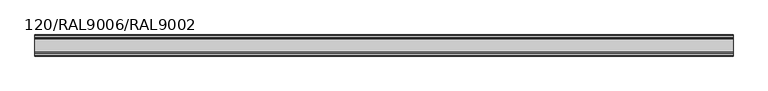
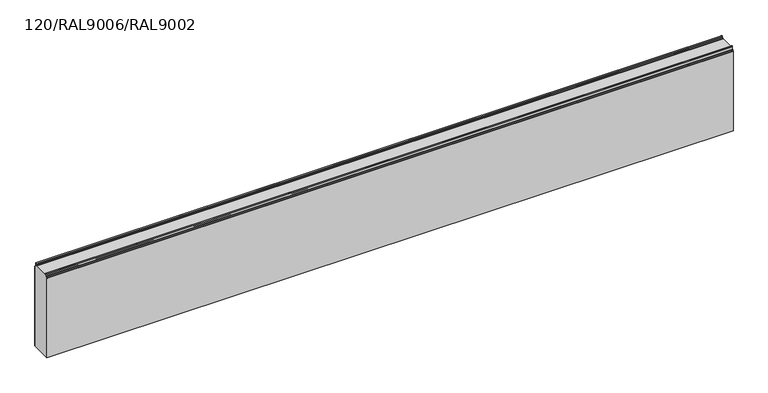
"""IFC4 building model written with IfcOpenShell, lengths in millimetres: plate geometry, TR_C_H_FTV_Panel_cut_TONGUE : 120/RAL9006/RAL9002."""

from ifc_helpers import new_model, si_unit, point, frame, frame_2d, origin, place, context, project, spatial, polyline, circle_curve, trimmed, segment, composite_curve, outline, extrude, source, transform, mapped, element, save


def plate_120_ral9006_ral9002_6d735d81(model_context):
    return source(origin(), model_context, "Body", "SweptSolid", [
        extrude(outline(composite_curve([segment(trimmed(circle_curve(frame_2d((-117.0, 484.3218266)), 2.2), [point((-119.2, 484.3218266))], [point((-118.5556349, 485.8774615))], False, "CARTESIAN"), True, "CONTINUOUS"), segment(polyline([(-118.5556349, 485.8774615), (-114.1665476, 490.2665488)]), True, "CONTINUOUS"), segment(trimmed(circle_curve(frame_2d((-116.5, 492.6000012)), 3.3), [point((-114.1665476, 490.2665488))], [point((-113.2, 492.6000012))], True, "CARTESIAN"), True, "CONTINUOUS"), segment(polyline([(-113.2, 492.6000012), (-113.2, 500.0), (-6.8, 500.0), (-6.8, 492.6000012)]), True, "CONTINUOUS"), segment(trimmed(circle_curve(frame_2d((-3.5, 492.6000012)), 3.3), [point((-6.8, 492.6000012))], [point((-5.8334524, 490.2665488))], True, "CARTESIAN"), True, "CONTINUOUS"), segment(polyline([(-5.8334524, 490.2665488), (-1.4443651, 485.8774615)]), True, "CONTINUOUS"), segment(trimmed(circle_curve(frame_2d((-3.0, 484.3218266)), 2.2), [point((-1.4443651, 485.8774615))], [point((-0.8, 484.3218266))], False, "CARTESIAN"), True, "CONTINUOUS"), segment(polyline([(-0.8, 484.3218266), (-0.8, 0.0), (-119.2, 0.0), (-119.2, 484.3218266)]), True, "CONTINUOUS")], self_intersect=False)), frame((-1980.0, 0.0, 0.0), z_axis=(1.0, 0.0, 0.0), x_axis=(0.0, 1.0, 0.0)), (0.0, 0.0, 1.0), 3960.0),
        extrude(outline(composite_curve([segment(trimmed(circle_curve(frame_2d((-3.0, 484.3218266)), 3.0), [point((-0.8786797, 486.4431469))], [point((0.0, 484.3218266))], False, "CARTESIAN"), True, "CONTINUOUS"), segment(polyline([(0.0, 484.3218266), (0.0, 0.0), (-0.8, 0.0), (-0.8, 484.3218266)]), True, "CONTINUOUS"), segment(trimmed(circle_curve(frame_2d((-3.0, 484.3218266)), 2.2), [point((-0.8, 484.3218266))], [point((-1.4443651, 485.8774615))], True, "CARTESIAN"), True, "CONTINUOUS"), segment(polyline([(-1.4443651, 485.8774615), (-5.8334524, 490.2665488)]), True, "CONTINUOUS"), segment(trimmed(circle_curve(frame_2d((-3.5, 492.6000012)), 3.3), [point((-5.8334524, 490.2665488))], [point((-6.8, 492.6000012))], False, "CARTESIAN"), True, "CONTINUOUS"), segment(polyline([(-6.8, 492.6000012), (-6.8, 507.3500012)]), True, "CONTINUOUS"), segment(trimmed(circle_curve(frame_2d((-9.25, 507.3500012)), 2.45), [point((-6.8, 507.3500012))], [point((-11.662779, 507.7754392))], True, "CARTESIAN"), True, "CONTINUOUS"), segment(polyline([(-11.662779, 507.7754392), (-12.4060919, 503.559902)]), True, "CONTINUOUS"), segment(trimmed(circle_curve(frame_2d((-16.8869672, 504.3500012)), 4.55), [point((-12.4060919, 503.559902))], [point((-16.8869672, 499.8000012))], False, "CARTESIAN"), True, "CONTINUOUS"), segment(polyline([(-16.8869672, 499.8000012), (-21.0, 499.8000012), (-21.0, 500.6000012), (-16.8869672, 500.6000012)]), True, "CONTINUOUS"), segment(trimmed(circle_curve(frame_2d((-16.8869672, 504.3500012)), 3.75), [point((-16.8869672, 500.6000012))], [point((-13.1939382, 503.6988205))], True, "CARTESIAN"), True, "CONTINUOUS"), segment(polyline([(-13.1939382, 503.6988205), (-12.4506252, 507.9143577)]), True, "CONTINUOUS"), segment(trimmed(circle_curve(frame_2d((-9.25, 507.3500012)), 3.25), [point((-12.4506252, 507.9143577))], [point((-6.0, 507.3500012))], False, "CARTESIAN"), True, "CONTINUOUS"), segment(polyline([(-6.0, 507.3500012), (-6.0, 492.6000012)]), True, "CONTINUOUS"), segment(trimmed(circle_curve(frame_2d((-3.5, 492.6000012)), 2.5), [point((-6.0, 492.6000012))], [point((-5.267767, 490.8322342))], True, "CARTESIAN"), True, "CONTINUOUS"), segment(polyline([(-5.267767, 490.8322342), (-0.8786797, 486.4431469)]), True, "CONTINUOUS")], self_intersect=False)), frame((-1980.0, 0.0, 0.0), z_axis=(1.0, 0.0, 0.0), x_axis=(0.0, 1.0, 0.0)), (0.0, 0.0, 1.0), 3960.0),
        extrude(outline(composite_curve([segment(trimmed(circle_curve(frame_2d((-103.1130328, 504.3500012)), 4.55), [point((-103.1130328, 499.8000012))], [point((-107.5939081, 503.559902))], False, "CARTESIAN"), True, "CONTINUOUS"), segment(polyline([(-107.5939081, 503.559902), (-108.337221, 507.7754392)]), True, "CONTINUOUS"), segment(trimmed(circle_curve(frame_2d((-110.75, 507.3500012)), 2.45), [point((-108.337221, 507.7754392))], [point((-113.2, 507.3500012))], True, "CARTESIAN"), True, "CONTINUOUS"), segment(polyline([(-113.2, 507.3500012), (-113.2, 492.6000012)]), True, "CONTINUOUS"), segment(trimmed(circle_curve(frame_2d((-116.5, 492.6000012)), 3.3), [point((-113.2, 492.6000012))], [point((-114.1665476, 490.2665488))], False, "CARTESIAN"), True, "CONTINUOUS"), segment(polyline([(-114.1665476, 490.2665488), (-118.5556349, 485.8774615)]), True, "CONTINUOUS"), segment(trimmed(circle_curve(frame_2d((-117.0, 484.3218266)), 2.2), [point((-118.5556349, 485.8774615))], [point((-119.2, 484.3218266))], True, "CARTESIAN"), True, "CONTINUOUS"), segment(polyline([(-119.2, 484.3218266), (-119.2, 0.0), (-120.0, 0.0), (-120.0, 484.3218266)]), True, "CONTINUOUS"), segment(trimmed(circle_curve(frame_2d((-117.0, 484.3218266)), 3.0), [point((-120.0, 484.3218266))], [point((-119.1213203, 486.4431469))], False, "CARTESIAN"), True, "CONTINUOUS"), segment(polyline([(-119.1213203, 486.4431469), (-114.732233, 490.8322342)]), True, "CONTINUOUS"), segment(trimmed(circle_curve(frame_2d((-116.5, 492.6000012)), 2.5), [point((-114.732233, 490.8322342))], [point((-114.0, 492.6000012))], True, "CARTESIAN"), True, "CONTINUOUS"), segment(polyline([(-114.0, 492.6000012), (-114.0, 507.3500012)]), True, "CONTINUOUS"), segment(trimmed(circle_curve(frame_2d((-110.75, 507.3500012)), 3.25), [point((-114.0, 507.3500012))], [point((-107.5493748, 507.9143577))], False, "CARTESIAN"), True, "CONTINUOUS"), segment(polyline([(-107.5493748, 507.9143577), (-106.8060618, 503.6988205)]), True, "CONTINUOUS"), segment(trimmed(circle_curve(frame_2d((-103.1130328, 504.3500012)), 3.75), [point((-106.8060618, 503.6988205))], [point((-103.1130328, 500.6000012))], True, "CARTESIAN"), True, "CONTINUOUS"), segment(polyline([(-103.1130328, 500.6000012), (-99.0, 500.6000012), (-99.0, 499.8000012), (-103.1130328, 499.8000012)]), True, "CONTINUOUS")], self_intersect=False)), frame((-1980.0, 0.0, 0.0), z_axis=(1.0, 0.0, 0.0), x_axis=(0.0, 1.0, 0.0)), (0.0, 0.0, 1.0), 3960.0),
    ])


if __name__ == "__main__":
    model = new_model("IFC4")
    model_context = context("Model", 3, world=origin())
    ifc_project = project(units=[si_unit("LENGTHUNIT", "METRE", prefix="MILLI")], contexts=[model_context])
    site = spatial("IfcSite", under=ifc_project)
    building = spatial("IfcBuilding", under=site)
    placement = place(None, origin())
    plate_120_ral9006_ral9002_shape = plate_120_ral9006_ral9002_6d735d81(model_context)
    element("IfcPlate", 1, ObjectType="TR_C_H_FTV_Panel_cut_TONGUE : 120/RAL9006/RAL9002", at=placement, inside=building, context=model_context, shape_type="MappedRepresentation", body=[
        mapped(plate_120_ral9006_ral9002_shape, transform((0.0, 0.0, 0.0), x_axis=(1.0, 0.0, 0.0), y_axis=(0.0, 1.0, 0.0), z_axis=(0.0, 0.0, 1.0))),
    ])
    save(model, "model.ifc")
